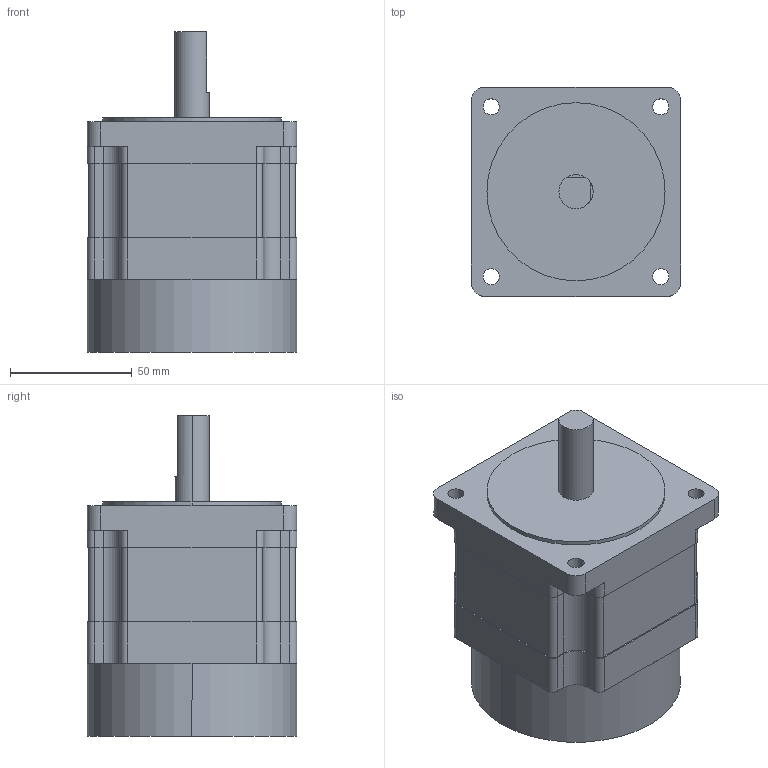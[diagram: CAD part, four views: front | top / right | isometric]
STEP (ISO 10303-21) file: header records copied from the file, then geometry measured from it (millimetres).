
FILE_DESCRIPTION (( 'STEP AP214' ), '1' );
FILE_NAME ('K596-M.STEP', '2016-09-09T07:23:02', ( 'hoho' ), ( '' ), 'SwSTEP 2.0', 'SolidWorks 2013', '' );
FILE_SCHEMA (( 'AUTOMOTIVE_DESIGN' ));
Length unit declared in the file: millimetre
Products named in the file (1): K596-M
Bounding box: 85.8 x 85.8 x 131.5 mm (x, y, z)
Volume: 615409.1 mm3; surface area: 46268.4 mm2
Topology: 1 solids, 1 shells, 108 faces, 300 edges, 198 vertices
Faces by surface type: cylinder 54, plane 54
Entity records: 3826 total; most frequent: DIRECTION 632, CARTESIAN_POINT 607, ORIENTED_EDGE 600, EDGE_CURVE 300, AXIS2_PLACEMENT_3D 223, VERTEX_POINT 198, LINE 186, VECTOR 186
